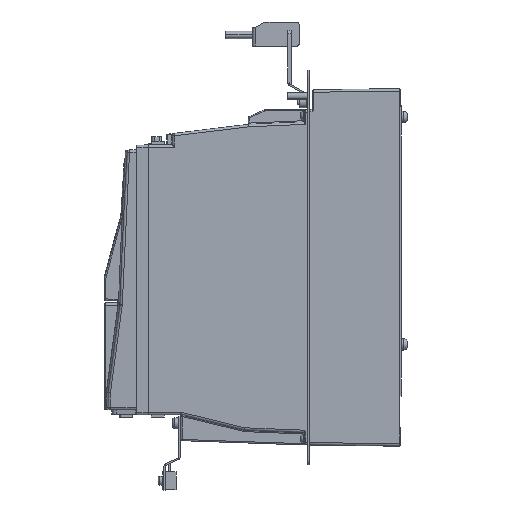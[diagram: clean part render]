
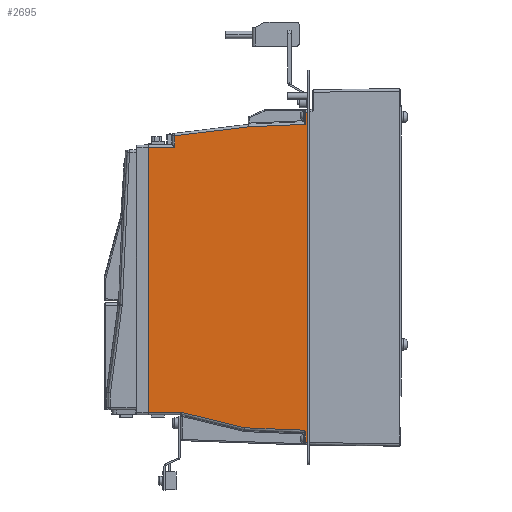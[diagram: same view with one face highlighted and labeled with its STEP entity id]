
A CAD part, left-side view. The second image highlights one B-rep face of the part: STEP entity #2695.
In plain terms, the highlighted planar face has unit normal (-1, 0, 0).
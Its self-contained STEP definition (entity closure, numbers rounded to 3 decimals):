
#551 = AXIS2_PLACEMENT_3D ( 'NONE', #17036, #29767, #20914 ) ;
#996 = ORIENTED_EDGE ( 'NONE', *, *, #32499, .F. ) ;
#1031 = CARTESIAN_POINT ( 'NONE',  ( -64., 77.016, -277.606 ) ) ;
#2003 = VECTOR ( 'NONE', #37987, 1000. ) ;
#2067 = VECTOR ( 'NONE', #15961, 1000. ) ;
#2233 = EDGE_CURVE ( 'NONE', #50687, #25215, #6524, .T. ) ;
#2292 = CARTESIAN_POINT ( 'NONE',  ( -64., 74.55, -19. ) ) ;
#2380 = EDGE_CURVE ( 'NONE', #42645, #51044, #31181, .T. ) ;
#2399 = DIRECTION ( 'NONE',  ( 0., 0., -1. ) ) ;
#2695 = ADVANCED_FACE ( 'NONE', ( #38636 ), #9003, .F. ) ;
#3485 = VECTOR ( 'NONE', #24693, 1000. ) ;
#3749 = LINE ( 'NONE', #45535, #39896 ) ;
#4194 = CARTESIAN_POINT ( 'NONE',  ( -64., 204.2, -262.5 ) ) ;
#4433 = DIRECTION ( 'NONE',  ( 0., 0., 1. ) ) ;
#5145 = VERTEX_POINT ( 'NONE', #39710 ) ;
#5415 = CARTESIAN_POINT ( 'NONE',  ( -64., 76.5, -28.98 ) ) ;
#6443 = DIRECTION ( 'NONE',  ( 0., 0., -1. ) ) ;
#6524 = B_SPLINE_CURVE_WITH_KNOTS ( 'NONE', 3,
 ( #12954, #26204, #1031, #20976, #8514, #37883, #54784, #21791 ),
 .UNSPECIFIED., .F., .F.,
 ( 4, 2, 2, 4 ),
 ( 0., 0.001, 0.002, 0.002 ),
 .UNSPECIFIED. ) ;
#7135 = EDGE_LOOP ( 'NONE', ( #41397, #43998, #35389, #36078, #25893, #26972, #53651, #35691, #7880, #47006, #19091, #32052, #38008, #996 ) ) ;
#7299 = EDGE_CURVE ( 'NONE', #33476, #40034, #52263, .T. ) ;
#7825 = CARTESIAN_POINT ( 'NONE',  ( -64., 204.2, 0. ) ) ;
#7880 = ORIENTED_EDGE ( 'NONE', *, *, #2380, .T. ) ;
#7894 = DIRECTION ( 'NONE',  ( 0., 0., -1. ) ) ;
#8514 = CARTESIAN_POINT ( 'NONE',  ( -64., 76.652, -278.27 ) ) ;
#8623 = LINE ( 'NONE', #25502, #31976 ) ;
#8766 = CARTESIAN_POINT ( 'NONE',  ( -64., 202.8, -262.5 ) ) ;
#9003 = PLANE ( 'NONE',  #551 ) ;
#9890 = DIRECTION ( 'NONE',  ( 0., -1., 0. ) ) ;
#10023 = VECTOR ( 'NONE', #4433, 1000. ) ;
#10430 = VERTEX_POINT ( 'NONE', #22836 ) ;
#12954 = CARTESIAN_POINT ( 'NONE',  ( -64., 77.5, -277.013 ) ) ;
#15120 = LINE ( 'NONE', #19536, #2067 ) ;
#15652 = VERTEX_POINT ( 'NONE', #50199 ) ;
#15961 = DIRECTION ( 'NONE',  ( 0., 0.999, -0.043 ) ) ;
#17036 = CARTESIAN_POINT ( 'NONE',  ( -64., 202.8, -289. ) ) ;
#17189 = LINE ( 'NONE', #50980, #24165 ) ;
#17740 = LINE ( 'NONE', #47371, #2003 ) ;
#17907 = CARTESIAN_POINT ( 'NONE',  ( -64., 202.8, -287. ) ) ;
#19091 = ORIENTED_EDGE ( 'NONE', *, *, #47905, .T. ) ;
#19536 = CARTESIAN_POINT ( 'NONE',  ( -64., 213.846, -34.952 ) ) ;
#19979 = CARTESIAN_POINT ( 'NONE',  ( -64., 202.8, -19. ) ) ;
#20572 = CARTESIAN_POINT ( 'NONE',  ( -64., 182.5, -47.5 ) ) ;
#20914 = DIRECTION ( 'NONE',  ( 0., 0., -1. ) ) ;
#20976 = CARTESIAN_POINT ( 'NONE',  ( -64., 76.733, -278.099 ) ) ;
#21393 = DIRECTION ( 'NONE',  ( 0., 1., 0. ) ) ;
#21791 = CARTESIAN_POINT ( 'NONE',  ( -64., 76.5, -279.014 ) ) ;
#22108 = CARTESIAN_POINT ( 'NONE',  ( -64., 77.5, -277.013 ) ) ;
#22836 = CARTESIAN_POINT ( 'NONE',  ( -64., 122.835, -30.995 ) ) ;
#22880 = CARTESIAN_POINT ( 'NONE',  ( -64., 76.5, -289. ) ) ;
#23051 = EDGE_CURVE ( 'NONE', #30774, #5145, #25551, .T. ) ;
#23126 = VECTOR ( 'NONE', #6443, 1000. ) ;
#24165 = VECTOR ( 'NONE', #29639, 1000. ) ;
#24462 = VECTOR ( 'NONE', #34753, 1000. ) ;
#24693 = DIRECTION ( 'NONE',  ( 0., 0., 1. ) ) ;
#25090 = EDGE_CURVE ( 'NONE', #40034, #47690, #29602, .T. ) ;
#25215 = VERTEX_POINT ( 'NONE', #41738 ) ;
#25502 = CARTESIAN_POINT ( 'NONE',  ( -64., 232.631, -44.384 ) ) ;
#25551 = LINE ( 'NONE', #54670, #49135 ) ;
#25893 = ORIENTED_EDGE ( 'NONE', *, *, #51564, .T. ) ;
#26204 = CARTESIAN_POINT ( 'NONE',  ( -64., 77.259, -277.308 ) ) ;
#26466 = EDGE_CURVE ( 'NONE', #45580, #29455, #38393, .T. ) ;
#26972 = ORIENTED_EDGE ( 'NONE', *, *, #7299, .T. ) ;
#29455 = VERTEX_POINT ( 'NONE', #41862 ) ;
#29602 = LINE ( 'NONE', #42349, #10023 ) ;
#29639 = DIRECTION ( 'NONE',  ( 0., -0.972, -0.236 ) ) ;
#29767 = DIRECTION ( 'NONE',  ( 1., 0., 0. ) ) ;
#30774 = VERTEX_POINT ( 'NONE', #20572 ) ;
#31181 = LINE ( 'NONE', #22880, #40286 ) ;
#31556 = DIRECTION ( 'NONE',  ( 0., 0.993, -0.121 ) ) ;
#31976 = VECTOR ( 'NONE', #31556, 1000. ) ;
#32052 = ORIENTED_EDGE ( 'NONE', *, *, #51302, .T. ) ;
#32499 = EDGE_CURVE ( 'NONE', #45580, #5145, #45751, .T. ) ;
#33476 = VERTEX_POINT ( 'NONE', #41197 ) ;
#34753 = DIRECTION ( 'NONE',  ( 0., -1., 0. ) ) ;
#35389 = ORIENTED_EDGE ( 'NONE', *, *, #54167, .T. ) ;
#35691 = ORIENTED_EDGE ( 'NONE', *, *, #49937, .T. ) ;
#36078 = ORIENTED_EDGE ( 'NONE', *, *, #2233, .T. ) ;
#36438 = CARTESIAN_POINT ( 'NONE',  ( -64., 182.5, -38.271 ) ) ;
#37315 = EDGE_CURVE ( 'NONE', #51044, #10430, #15120, .T. ) ;
#37313 = VERTEX_POINT ( 'NONE', #36438 ) ;
#37883 = CARTESIAN_POINT ( 'NONE',  ( -64., 76.535, -278.634 ) ) ;
#37987 = DIRECTION ( 'NONE',  ( 0., -0.999, -0.041 ) ) ;
#38008 = ORIENTED_EDGE ( 'NONE', *, *, #23051, .T. ) ;
#38393 = LINE ( 'NONE', #8766, #24462 ) ;
#38636 = FACE_OUTER_BOUND ( 'NONE', #7135, .T. ) ;
#39562 = EDGE_CURVE ( 'NONE', #29455, #15652, #17189, .T. ) ;
#39710 = CARTESIAN_POINT ( 'NONE',  ( -64., 204.2, -47.5 ) ) ;
#39896 = VECTOR ( 'NONE', #7894, 1000. ) ;
#40034 = VERTEX_POINT ( 'NONE', #44988 ) ;
#40121 = VECTOR ( 'NONE', #40205, 1000. ) ;
#40205 = DIRECTION ( 'NONE',  ( 0., 1., 0. ) ) ;
#40286 = VECTOR ( 'NONE', #2399, 1000. ) ;
#41197 = CARTESIAN_POINT ( 'NONE',  ( -64., 76.5, -287. ) ) ;
#41219 = CARTESIAN_POINT ( 'NONE',  ( -64., 76.5, -19. ) ) ;
#41397 = ORIENTED_EDGE ( 'NONE', *, *, #26466, .T. ) ;
#41738 = CARTESIAN_POINT ( 'NONE',  ( -64., 76.5, -279.014 ) ) ;
#41862 = CARTESIAN_POINT ( 'NONE',  ( -64., 177.407, -262.5 ) ) ;
#42349 = CARTESIAN_POINT ( 'NONE',  ( -64., 74.55, 10. ) ) ;
#42645 = VERTEX_POINT ( 'NONE', #41219 ) ;
#43998 = ORIENTED_EDGE ( 'NONE', *, *, #39562, .T. ) ;
#44116 = CARTESIAN_POINT ( 'NONE',  ( -64., 76.5, -289. ) ) ;
#44988 = CARTESIAN_POINT ( 'NONE',  ( -64., 74.55, -287. ) ) ;
#45535 = CARTESIAN_POINT ( 'NONE',  ( -64., 182.5, -289. ) ) ;
#45580 = VERTEX_POINT ( 'NONE', #4194 ) ;
#45751 = LINE ( 'NONE', #7825, #3485 ) ;
#47006 = ORIENTED_EDGE ( 'NONE', *, *, #37315, .T. ) ;
#47371 = CARTESIAN_POINT ( 'NONE',  ( -64., 76.92, -277.036 ) ) ;
#47690 = VERTEX_POINT ( 'NONE', #2292 ) ;
#47784 = LINE ( 'NONE', #19979, #40121 ) ;
#47905 = EDGE_CURVE ( 'NONE', #10430, #37313, #8623, .T. ) ;
#49135 = VECTOR ( 'NONE', #21393, 1000. ) ;
#49937 = EDGE_CURVE ( 'NONE', #47690, #42645, #47784, .T. ) ;
#50199 = CARTESIAN_POINT ( 'NONE',  ( -64., 125.725, -275.044 ) ) ;
#50687 = VERTEX_POINT ( 'NONE', #22108 ) ;
#50980 = CARTESIAN_POINT ( 'NONE',  ( -64., 125.536, -275.09 ) ) ;
#51044 = VERTEX_POINT ( 'NONE', #5415 ) ;
#51302 = EDGE_CURVE ( 'NONE', #37313, #30774, #3749, .T. ) ;
#51564 = EDGE_CURVE ( 'NONE', #25215, #33476, #53247, .T. ) ;
#52263 = LINE ( 'NONE', #17907, #53837 ) ;
#53247 = LINE ( 'NONE', #44116, #23126 ) ;
#53651 = ORIENTED_EDGE ( 'NONE', *, *, #25090, .T. ) ;
#53837 = VECTOR ( 'NONE', #9890, 1000. ) ;
#54167 = EDGE_CURVE ( 'NONE', #15652, #50687, #17740, .T. ) ;
#54670 = CARTESIAN_POINT ( 'NONE',  ( -64., 202.8, -47.5 ) ) ;
#54784 = CARTESIAN_POINT ( 'NONE',  ( -64., 76.5, -278.822 ) ) ;
